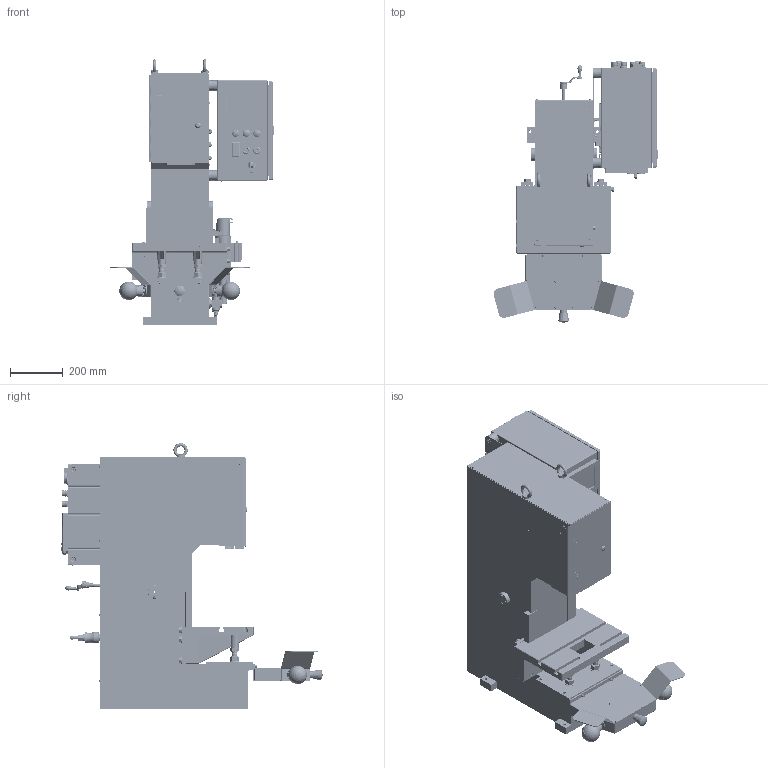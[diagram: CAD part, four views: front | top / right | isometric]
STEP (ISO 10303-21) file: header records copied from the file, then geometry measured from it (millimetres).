
FILE_DESCRIPTION(/* description */ (''),/* implementation_level */ '2;1');
FILE_NAME(/* name */ 'P:\CAD-Daten-für-Kunden\07_Pressen KHP\01_KHP Standard\mit SpiceFlex\Presse_KHP_50kN_G800_Hub62+V_ANR31992+SpiceFlex.stp',/* time_stamp */ '2021-03-08T11:45:39+01:00',/* author */ ('tse'),/* organization */ (''),/* preprocessor_version */ 'ST-DEVELOPER v18',/* originating_system */ 'Autodesk Inventor 2020',/* authorisation */ '');
FILE_SCHEMA (('AUTOMOTIVE_DESIGN { 1 0 10303 214 3 1 1 }'));
Products named in the file (7): Presse_KHP_50kN_G800_Hub62+V_ANR31992+SpiceFlex; Ständereinheit_KHP_50-70kN_G800_V; Tischeinheit_KHP_50-70-100kN_HPC_110kN_ANR18613; Schlittendummy_KHP_50-70-100kN_HPC_110kN_ANR18607; SpiceFlex_Steuerkasten_ANR_29954; Zweihand_Tasterkasten_mit_Safeballs_und_Not-Aus_ANR_30032; Pneumatik_KHP_1_2kN
Assembly tree (6 placements, depth 2):
  Presse_KHP_50kN_G800_Hub62+V_ANR31992+SpiceFlex
    Ständereinheit_KHP_50-70kN_G800_V
    Tischeinheit_KHP_50-70-100kN_HPC_110kN_ANR18613
    Schlittendummy_KHP_50-70-100kN_HPC_110kN_ANR18607
    SpiceFlex_Steuerkasten_ANR_29954
    Zweihand_Tasterkasten_mit_Safeballs_und_Not-Aus_ANR_30032
    Pneumatik_KHP_1_2kN
Bounding box: 623.47 x 988.01 x 1005 mm (x, y, z)
Volume: 95291570 mm3; surface area: 5631411.5 mm2
Topology: 54 solids, 112 shells, 20084 faces, 54936 edges, 36504 vertices
Faces by surface type: plane 11446, bspline 4200, cylinder 3068, cone 993, torus 244, sphere 133
Full cylindrical faces by diameter (mm): 0.4 x1, 0.474 x2, 0.98 x3, 1.1 x80, 1.5 x1, 1.6 x4, 1.9 x4, 2 x17, 2.013 x1, 2.1 x8, 2.4 x4, 2.459 x32, 2.5 x9, 2.6 x30, 2.75 x4, 3 x18, 3.141 x8, 3.2 x32, 3.242 x25, 3.4 x4, 3.5 x2, 3.7 x16, 3.8 x2, 4 x42, 4.1 x24, 4.134 x4, 4.2 x6, 4.3 x2, 4.4 x4, 4.5 x22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
Entity records: 704103 total; most frequent: CARTESIAN_POINT 195511, ORIENTED_EDGE 109556, DIRECTION 86844, EDGE_CURVE 54778, VERTEX_POINT 36504, LINE 33984, VECTOR 33984, AXIS2_PLACEMENT_3D 26430
